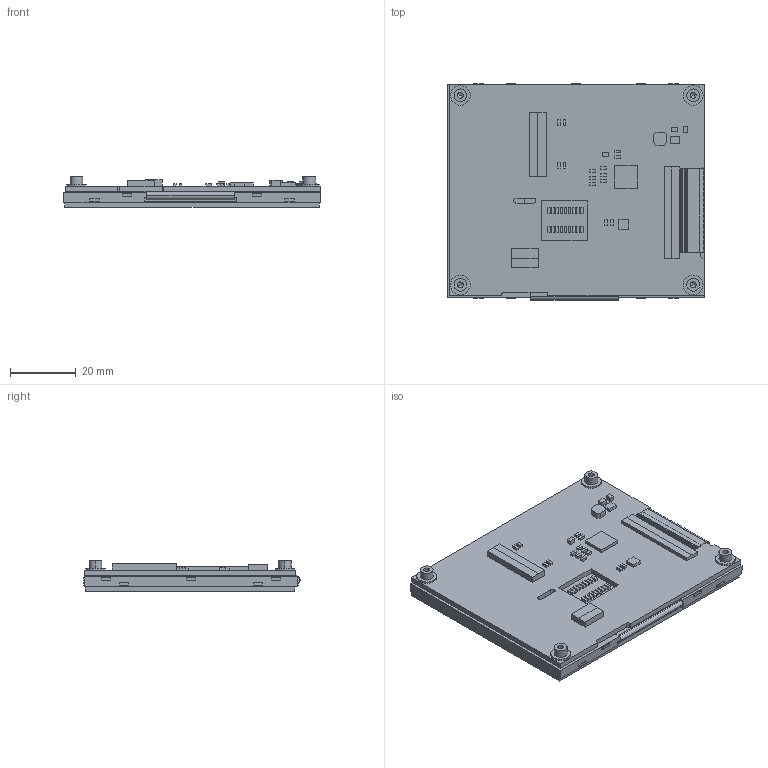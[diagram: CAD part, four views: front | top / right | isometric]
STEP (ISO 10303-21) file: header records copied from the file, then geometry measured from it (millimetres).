
FILE_DESCRIPTION (( 'STEP AP214' ), '1' );
FILE_NAME ('CFAF3202400F-035TS-A1-1.STEP', '2020-01-07T22:27:27', ( '' ), ( '' ), 'SwSTEP 2.0', 'SolidWorks 2015', '' );
FILE_SCHEMA (( 'AUTOMOTIVE_DESIGN' ));
Length unit declared in the file: millimetre
Products named in the file (4): CFA10086_STEP_Appearance; CFAF3202400F-035TS-A1-1; VHB Tape; CFAF320240F-035TS_STEP_Appearance_Folded_Tail
Assembly tree (4 placements, depth 2):
  CFAF3202400F-035TS-A1-1
    CFA10086_STEP_Appearance
    VHB Tape  x2
    CFAF320240F-035TS_STEP_Appearance_Folded_Tail
Bounding box: 78.5 x 65.92 x 9.4 mm (x, y, z)
Volume: 31479.8 mm3; surface area: 40407.4 mm2
Topology: 6 solids, 6 shells, 655 faces, 1706 edges, 1128 vertices
Faces by surface type: plane 602, cylinder 41, cone 12
Entity records: 26575 total; most frequent: CARTESIAN_POINT 3462, ORIENTED_EDGE 3372, DIRECTION 3084, EDGE_CURVE 1686, VECTOR 1600, LINE 1600, VERTEX_POINT 1120, AXIS2_PLACEMENT_3D 742
